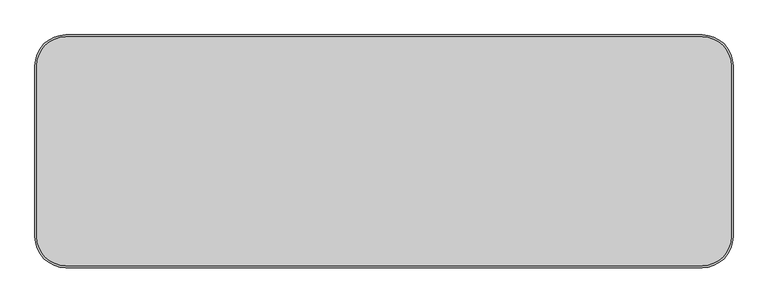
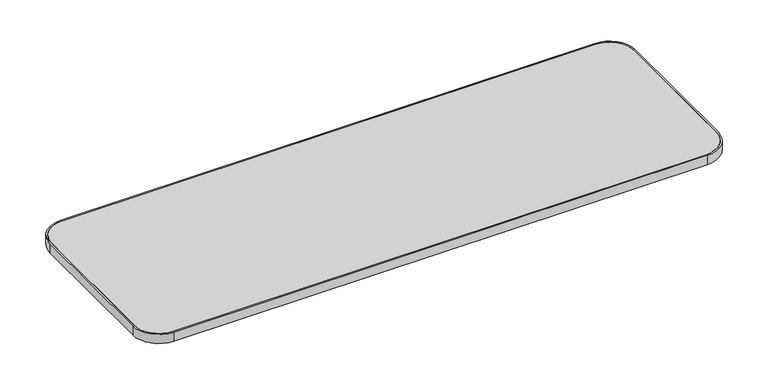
"""IFC4 building model written with IfcOpenShell, lengths in millimetres: furniture geometry, Steelcase - Answer Solution - Universal Table - Straight - 3mm Edge : 24D x 72W."""

import ifcopenshell
import ifcopenshell.guid

model = None  # the IFC model being written
_history = None  # IfcOwnerHistory: only IFC2X3 demands one
_inside = {}  # id of a spatial element -> (the spatial element, [elements in it])
_under = {}  # id of a project, library or spatial element -> (it, [spatial elements below it])
_declared = {}  # id of a project -> (the project, [libraries it declares])
_typed = {}  # id of a type object -> (the type object, [elements of that type])
_made_of = {}  # id of a material, layer set ... -> (it, [elements and type objects made of it])


def new_model(schema):
    """Start an empty IFC model of exactly this schema.

    Asked for "IFC4X3", IfcOpenShell would pick the latest addendum, in which some entities
    have other attributes; the version numbers below select the first issue.
    IFC2X3 requires an IfcOwnerHistory on every rooted entity: one is made here for all.
    """
    global model, _history
    if schema == "IFC4X3":
        model = ifcopenshell.file(schema_version=(4, 3, 0, 0))
    else:
        model = ifcopenshell.file(schema=schema)
    _inside.clear()
    _under.clear()
    _declared.clear()
    _typed.clear()
    _made_of.clear()
    _history = None
    if model.schema == "IFC2X3":
        org = make("IfcOrganization", Name="unknown")
        user = make(
            "IfcPersonAndOrganization",
            ThePerson=make("IfcPerson", FamilyName="unknown"),
            TheOrganization=org,
        )
        app = make(
            "IfcApplication",
            ApplicationDeveloper=org,
            Version="unknown",
            ApplicationFullName="unknown",
            ApplicationIdentifier="unknown",
        )
        _history = make(
            "IfcOwnerHistory",
            OwningUser=user,
            OwningApplication=app,
            ChangeAction="ADDED",
            CreationDate=0,
        )
    return model


def make(cls, **values):
    """One entity of the class cls with the attributes given. An attribute that is None is left unset."""
    return model.create_entity(
        cls, **{name: value for name, value in values.items() if value is not None}
    )


def rooted(cls, **values):
    """An entity with a GlobalId (a new one), such as an element, a storey or a relation."""
    return make(cls, GlobalId=ifcopenshell.guid.new(), OwnerHistory=_history, **values)


def si_unit(unit_type, name, prefix=None):
    """IfcSIUnit, for example si_unit("LENGTHUNIT", "METRE", prefix="MILLI")."""
    return make("IfcSIUnit", UnitType=unit_type, Prefix=prefix, Name=name)


def assignment(units):
    """IfcUnitAssignment: the units of a project."""
    return None if units is None else make("IfcUnitAssignment", Units=units)


def point(xyz):
    """IfcCartesianPoint."""
    return None if xyz is None else make("IfcCartesianPoint", Coordinates=xyz)


def direction(xyz):
    """IfcDirection."""
    return None if xyz is None else make("IfcDirection", DirectionRatios=xyz)


def frame(location, z_axis=None, x_axis=None):
    """IfcAxis2Placement3D, a coordinate frame: its origin and axes. An axis left out is left unset."""
    return make(
        "IfcAxis2Placement3D",
        Location=point(location),
        Axis=direction(z_axis),
        RefDirection=direction(x_axis),
    )


def frame_2d(location, x_axis=None):
    """IfcAxis2Placement2D, a coordinate frame in the plane: its origin and x axis."""
    return make(
        "IfcAxis2Placement2D", Location=point(location), RefDirection=direction(x_axis)
    )


def origin():
    """The frame at (0, 0, 0) with its axes left unset."""
    return frame((0.0, 0.0, 0.0))


def place(relative_to, where):
    """IfcLocalPlacement: puts the frame where relative to a parent placement (None: the world)."""
    return make(
        "IfcLocalPlacement", PlacementRelTo=relative_to, RelativePlacement=where
    )


def context(
    kind, dimensions, precision=None, world=None, true_north=None, identifier=None
):
    """IfcGeometricRepresentationContext, for example the 3D "Model" context."""
    return make(
        "IfcGeometricRepresentationContext",
        ContextIdentifier=identifier,
        ContextType=kind,
        CoordinateSpaceDimension=dimensions,
        Precision=precision,
        WorldCoordinateSystem=world,
        TrueNorth=true_north,
    )


def project(units=None, contexts=None):
    """IfcProject with its units and contexts."""
    return rooted(
        "IfcProject",
        Name="project",
        RepresentationContexts=contexts,
        UnitsInContext=assignment(units),
    )


def spatial(cls, under=None, at=None, **own):
    """A site, building, storey or space (cls), placed at a placement, below another one or the project."""
    s = rooted(cls, ObjectPlacement=at, **own)
    if under is not None:
        _under.setdefault(under.id(), (under, []))[1].append(s)
    return s


def polyline(points):
    """IfcPolyline through the points."""
    return make("IfcPolyline", Points=[point(p) for p in points])


def circle_curve(where, radius):
    """IfcCircle in the frame where."""
    return make("IfcCircle", Position=where, Radius=radius)


def trimmed(basis, trim1, trim2, sense, master):
    """IfcTrimmedCurve: the piece of a basis curve between two trims."""
    return make(
        "IfcTrimmedCurve",
        BasisCurve=basis,
        Trim1=trim1,
        Trim2=trim2,
        SenseAgreement=sense,
        MasterRepresentation=master,
    )


def segment(curve, same_sense, transition):
    """IfcCompositeCurveSegment."""
    return make(
        "IfcCompositeCurveSegment",
        Transition=transition,
        SameSense=same_sense,
        ParentCurve=curve,
    )


def composite_curve(segments, self_intersect=None):
    """IfcCompositeCurve: segments joined end to end."""
    return make("IfcCompositeCurve", Segments=segments, SelfIntersect=self_intersect)


def outline(outer, holes=None, kind="AREA"):
    """IfcArbitraryClosedProfileDef: a profile drawn as a closed curve; with holes, ...WithVoids."""
    if holes is None:
        return make("IfcArbitraryClosedProfileDef", ProfileType=kind, OuterCurve=outer)
    return make(
        "IfcArbitraryProfileDefWithVoids",
        ProfileType=kind,
        OuterCurve=outer,
        InnerCurves=holes,
    )


def extrude(swept, where, along, depth):
    """IfcExtrudedAreaSolid: the profile swept, set in the frame where, extruded along a direction by depth."""
    return make(
        "IfcExtrudedAreaSolid",
        SweptArea=swept,
        Position=where,
        ExtrudedDirection=direction(along),
        Depth=depth,
    )


def shape(context_of_items, identifier, shape_type, items):
    """IfcShapeRepresentation: the items that make up one representation, for example the "Body"."""
    return make(
        "IfcShapeRepresentation",
        ContextOfItems=context_of_items,
        RepresentationIdentifier=identifier,
        RepresentationType=shape_type,
        Items=items,
    )


def source(mapping_origin, context_of_items, identifier, shape_type, items):
    """IfcRepresentationMap: a shape defined once, which mapped items show again and again."""
    return make(
        "IfcRepresentationMap",
        MappingOrigin=mapping_origin,
        MappedRepresentation=shape(context_of_items, identifier, shape_type, items),
    )


def transform(
    local_origin,
    x_axis=None,
    y_axis=None,
    z_axis=None,
    scale=None,
    scale2=None,
    scale3=None,
    uniform=True,
):
    """IfcCartesianTransformationOperator3D, or its non-uniform kind. x_axis, y_axis, z_axis: its Axis1, 2, 3."""
    if uniform:
        return make(
            "IfcCartesianTransformationOperator3D",
            Axis1=direction(x_axis),
            Axis2=direction(y_axis),
            LocalOrigin=point(local_origin),
            Scale=scale,
            Axis3=direction(z_axis),
        )
    return make(
        "IfcCartesianTransformationOperator3DnonUniform",
        Axis1=direction(x_axis),
        Axis2=direction(y_axis),
        LocalOrigin=point(local_origin),
        Scale=scale,
        Axis3=direction(z_axis),
        Scale2=scale2,
        Scale3=scale3,
    )


def mapped(mapping_source, mapping_target):
    """IfcMappedItem: shows the shape of a source again, moved by a transform."""
    return make(
        "IfcMappedItem", MappingSource=mapping_source, MappingTarget=mapping_target
    )


def made_of(thing, what):
    """Note that an element or type object is made of a material, layer set ...; save() writes the relation."""
    if what is not None:
        _made_of.setdefault(what.id(), (what, []))[1].append(thing)
    return thing


def element(
    cls,
    number,
    at=None,
    inside=None,
    cuts=None,
    type_object=None,
    material=None,
    context=None,
    identifier="Body",
    shape_type=None,
    held_by="IfcProductDefinitionShape",
    body=None,
    shapes=None,
    **own,
):
    """One element of the class cls, such as IfcWall. Its Tag is "e" and its number.

    at: its placement. inside: the storey or other place that contains it. cuts: it is an
    opening in that element (IfcRelVoidsElement). A single representation is given by context,
    identifier, shape_type and body (its items); several are given by shapes. held_by: the class
    of the entity that holds the representations. save() writes the other relations.
    """
    e = rooted(cls, Tag="e%d" % number, ObjectPlacement=at, **own)
    if body is not None:
        shapes = [shape(context, identifier, shape_type, body)]
    if shapes is not None:
        e.Representation = make(held_by, Representations=shapes)
    if inside is not None:
        _inside.setdefault(inside.id(), (inside, []))[1].append(e)
    if cuts is not None:
        rooted(
            "IfcRelVoidsElement", RelatingBuildingElement=cuts, RelatedOpeningElement=e
        )
    if type_object is not None:
        _typed.setdefault(type_object.id(), (type_object, []))[1].append(e)
    return made_of(e, material)


def aggregate(whole, parts):
    """IfcRelAggregates: a whole, such as a stair, and the parts it consists of."""
    return rooted("IfcRelAggregates", RelatingObject=whole, RelatedObjects=parts)


def save(model, path):
    """Write the relations noted so far, then the file.

    IfcRelAggregates (storeys below a building ...), IfcRelContainedInSpatialStructure (elements
    in a storey), IfcRelDefinesByType, IfcRelAssociatesMaterial and IfcRelDeclares: one each for
    every whole, place, type object, material and project.
    """
    for whole, parts in _under.values():
        aggregate(whole, parts)
    for where, things in _inside.values():
        rooted(
            "IfcRelContainedInSpatialStructure",
            RelatedElements=things,
            RelatingStructure=where,
        )
    for kind, things in _typed.values():
        rooted("IfcRelDefinesByType", RelatedObjects=things, RelatingType=kind)
    for what, things in _made_of.values():
        rooted("IfcRelAssociatesMaterial", RelatedObjects=things, RelatingMaterial=what)
    for by, libraries in _declared.values():
        rooted("IfcRelDeclares", RelatingContext=by, RelatedDefinitions=libraries)
    model.write(path)


def furniture_8805ef1a(model_context):
    return source(origin(), model_context, "Body", "SweptSolid", [
        extrude(outline(composite_curve([segment(polyline([(5.08, -528.32), (5.08, -81.28)]), True, "CONTINUOUS"), segment(trimmed(circle_curve(frame_2d((81.28, -81.28)), 76.2), [point((5.08, -81.28))], [point((81.28, -5.08))], False, "CARTESIAN"), True, "CONTINUOUS"), segment(polyline([(81.28, -5.08), (1747.52, -5.08)]), True, "CONTINUOUS"), segment(trimmed(circle_curve(frame_2d((1747.52, -81.28)), 76.2), [point((1747.52, -5.08))], [point((1823.72, -81.28))], False, "CARTESIAN"), True, "CONTINUOUS"), segment(polyline([(1823.72, -81.28), (1823.72, -528.32)]), True, "CONTINUOUS"), segment(trimmed(circle_curve(frame_2d((1747.52, -528.32)), 76.2), [point((1823.72, -528.32))], [point((1747.52, -604.52))], False, "CARTESIAN"), True, "CONTINUOUS"), segment(polyline([(1747.52, -604.52), (81.28, -604.52)]), True, "CONTINUOUS"), segment(trimmed(circle_curve(frame_2d((81.28, -528.32)), 76.2), [point((81.28, -604.52))], [point((5.08, -528.32))], False, "CARTESIAN"), True, "CONTINUOUS")], self_intersect=False)), frame((0.0, 0.0, 668.274), z_axis=(0.0, 0.0, 1.0), x_axis=(1.0, 0.0, 0.0)), (0.0, 0.0, 1.0), 30.0990349),
        extrude(outline(composite_curve([segment(polyline([(81.28, 0.0), (1747.52, 0.0)]), True, "CONTINUOUS"), segment(trimmed(circle_curve(frame_2d((1747.52, -81.28)), 81.28), [point((1747.52, 0.0))], [point((1828.8, -81.28))], False, "CARTESIAN"), True, "CONTINUOUS"), segment(polyline([(1828.8, -81.28), (1828.8, -528.32)]), True, "CONTINUOUS"), segment(trimmed(circle_curve(frame_2d((1747.52, -528.32)), 81.28), [point((1828.8, -528.32))], [point((1747.52, -609.6))], False, "CARTESIAN"), True, "CONTINUOUS"), segment(polyline([(1747.52, -609.6), (81.28, -609.6)]), True, "CONTINUOUS"), segment(trimmed(circle_curve(frame_2d((81.28, -528.32)), 81.28), [point((81.28, -609.6))], [point((0.0, -528.32))], False, "CARTESIAN"), True, "CONTINUOUS"), segment(polyline([(0.0, -528.32), (0.0, -81.28)]), True, "CONTINUOUS"), segment(trimmed(circle_curve(frame_2d((81.28, -81.28)), 81.28), [point((0.0, -81.28))], [point((81.28, 0.0))], False, "CARTESIAN"), True, "CONTINUOUS")], self_intersect=False), holes=[composite_curve([segment(trimmed(circle_curve(frame_2d((81.28, -81.28)), 76.2), [point((81.28, -5.08))], [point((5.08, -81.28))], True, "CARTESIAN"), True, "CONTINUOUS"), segment(polyline([(5.08, -81.28), (5.08, -528.32)]), True, "CONTINUOUS"), segment(trimmed(circle_curve(frame_2d((81.28, -528.32)), 76.2), [point((5.08, -528.32))], [point((81.28, -604.52))], True, "CARTESIAN"), True, "CONTINUOUS"), segment(polyline([(81.28, -604.52), (1747.52, -604.52)]), True, "CONTINUOUS"), segment(trimmed(circle_curve(frame_2d((1747.52, -528.32)), 76.2), [point((1747.52, -604.52))], [point((1823.72, -528.32))], True, "CARTESIAN"), True, "CONTINUOUS"), segment(polyline([(1823.72, -528.32), (1823.72, -81.28)]), True, "CONTINUOUS"), segment(trimmed(circle_curve(frame_2d((1747.52, -81.28)), 76.2), [point((1823.72, -81.28))], [point((1747.52, -5.08))], True, "CARTESIAN"), True, "CONTINUOUS"), segment(polyline([(1747.52, -5.08), (81.28, -5.08)]), True, "CONTINUOUS")], self_intersect=False)]), frame((0.0, 0.0, 668.274), z_axis=(0.0, 0.0, 1.0), x_axis=(1.0, 0.0, 0.0)), (0.0, 0.0, 1.0), 30.0990349),
    ])


if __name__ == "__main__":
    model = new_model("IFC4")
    model_context = context("Model", 3, world=origin())
    ifc_project = project(units=[si_unit("LENGTHUNIT", "METRE", prefix="MILLI")], contexts=[model_context])
    site = spatial("IfcSite", under=ifc_project)
    building = spatial("IfcBuilding", under=site)
    placement = place(None, origin())
    furniture_shape = furniture_8805ef1a(model_context)
    element("IfcFurniture", 1, ObjectType="Steelcase - Answer Solution - Universal Table - Straight - 3mm Edge : 24D x 72W", at=placement, inside=building, context=model_context, shape_type="MappedRepresentation", body=[
        mapped(furniture_shape, transform((0.0, 0.0, 0.0), x_axis=(1.0, 0.0, 0.0), y_axis=(0.0, 1.0, 0.0), z_axis=(0.0, 0.0, 1.0))),
    ])
    save(model, "model.ifc")
